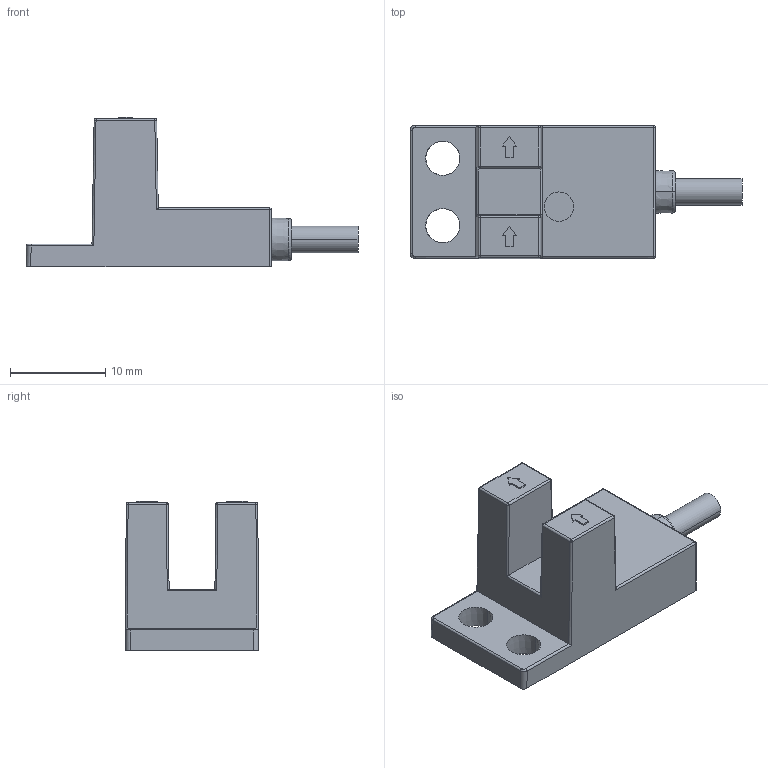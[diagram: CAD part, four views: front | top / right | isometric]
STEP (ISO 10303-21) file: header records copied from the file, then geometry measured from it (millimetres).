
FILE_DESCRIPTION((''),'2;1');
FILE_NAME('ASM674_ASM_ASM','2018-07-16T13:51:37',('Administrator'),(''),'CREO PARAMETRIC BY PTC INC, 2016390','CREO PARAMETRIC BY PTC INC, 2016390','');
FILE_SCHEMA(('CONFIG_CONTROL_DESIGN'));
Products named in the file (4): FFU-674_33; F2_6_7; ASM67400_ASM_16_ASM; ASM674_ASM_ASM
Assembly tree (3 placements, depth 3):
  ASM674_ASM_ASM
    ASM67400_ASM_16_ASM
      FFU-674_33
      F2_6_7
Bounding box: 34.9 x 14 x 15.75 mm (x, y, z)
Volume: 1377 mm3; surface area: 2891.4 mm2
Topology: 3 solids, 3 shells, 155 faces, 396 edges, 244 vertices
Faces by surface type: plane 93, cylinder 38, sphere 10, cone 10, torus 4
Entity records: 4762 total; most frequent: CARTESIAN_POINT 921, DIRECTION 778, ORIENTED_EDGE 772, EDGE_CURVE 386, VECTOR 284, LINE 284, AXIS2_PLACEMENT_3D 247, VERTEX_POINT 244
